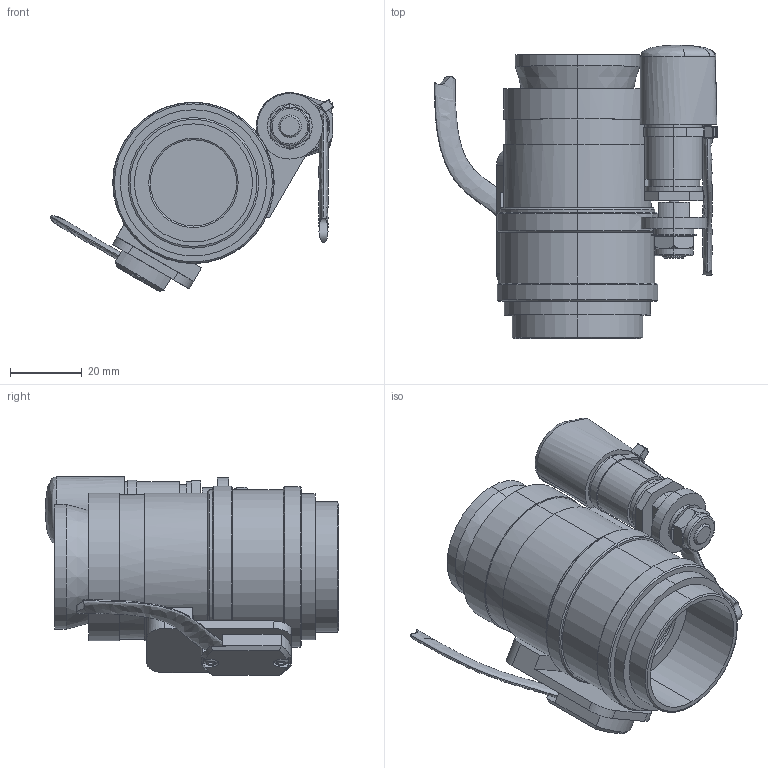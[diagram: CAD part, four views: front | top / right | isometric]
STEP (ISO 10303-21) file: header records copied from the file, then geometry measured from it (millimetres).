
FILE_DESCRIPTION (( 'STEP AP214' ), '1' );
FILE_NAME ('35-03-30-000 OUTLINE.STEP', '2012-11-15T21:31:18', ( '' ), ( '' ), 'SwSTEP 2.0', 'SolidWorks 2011', '' );
FILE_SCHEMA (( 'AUTOMOTIVE_DESIGN' ));
Length unit declared in the file: inch
Products named in the file (1): 35-03-30-000 OUTLINE
Bounding box: 79.2 x 81.97 x 55.56 mm (x, y, z)
Volume: 95587.5 mm3; surface area: 27261.4 mm2
Topology: 1 solids, 1 shells, 269 faces, 695 edges, 434 vertices
Faces by surface type: plane 119, cylinder 88, cone 32, torus 16, bspline 14
Entity records: 9280 total; most frequent: CARTESIAN_POINT 2607, DIRECTION 1400, ORIENTED_EDGE 1370, EDGE_CURVE 685, AXIS2_PLACEMENT_3D 521, VERTEX_POINT 434, LINE 358, VECTOR 358
